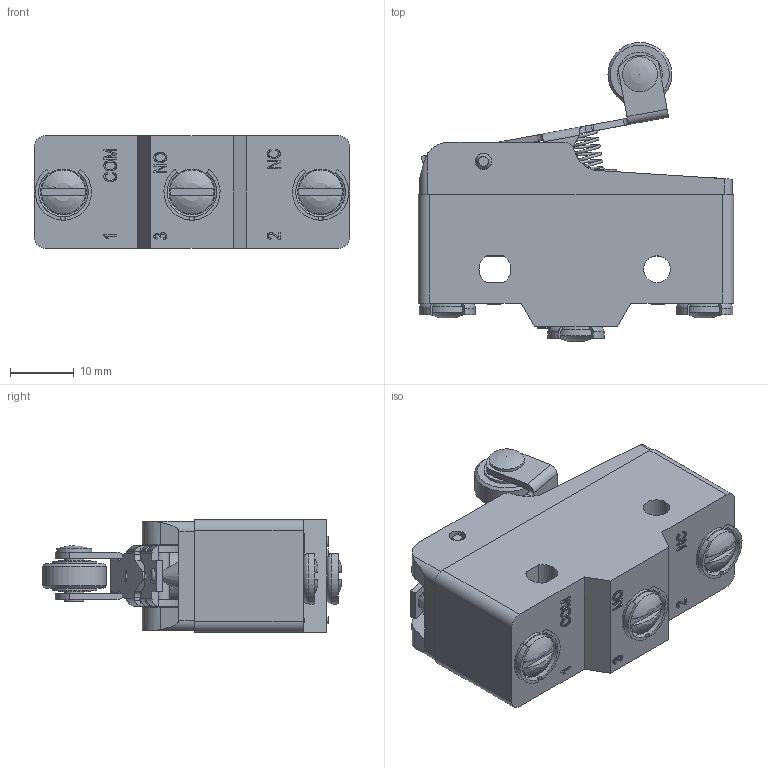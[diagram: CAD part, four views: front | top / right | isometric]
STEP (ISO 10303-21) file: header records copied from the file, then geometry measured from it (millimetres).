
FILE_DESCRIPTION((''),'2; 1');
FILE_NAME('','2026-03-27T16:23:05',(''),(''),'CST STEP Exporter V1.0','Unknown','');
FILE_SCHEMA(('CONFIG_CONTROL_DESIGN'));
Length unit declared in the file: metre
Assembly tree (16 placements, depth 2):
  (unnamed)
    (unnamed)
    (unnamed)
    (unnamed)
    (unnamed)
    (unnamed)
    (unnamed)
    (unnamed)
    (unnamed)
    (unnamed)
    (unnamed)
    (unnamed)
    (unnamed)
    (unnamed)
    (unnamed)
    (unnamed)
    (unnamed)
Bounding box: 49.4 x 46.85 x 17.7 mm (x, y, z)
Surface area: 16811 mm2 (no closed solid volume)
Topology: 0 solids, 17 shells, 497 faces, 1451 edges, 991 vertices
Faces by surface type: plane 317, cylinder 95, extrusion 60, torus 8, cone 7, revolution 6, sphere 2, bspline 2
Full cylindrical faces by diameter (mm): 1.2 x1, 1.8 x1, 1.9 x1, 2.4 x1, 2.5 x1, 2.6 x3, 3 x1, 3.2 x1, 4.2 x1, 5 x1, 5.5 x1, 6.9 x3, 7 x2, 8.2 x1, 10 x1
Entity records: 23056 total; most frequent: CARTESIAN_POINT 6238, ORIENTED_EDGE 2598, DIRECTION 2371, EDGE_CURVE 1403, VECTOR 1006, VERTEX_POINT 957, LINE 946, AXIS2_PLACEMENT_3D 681
